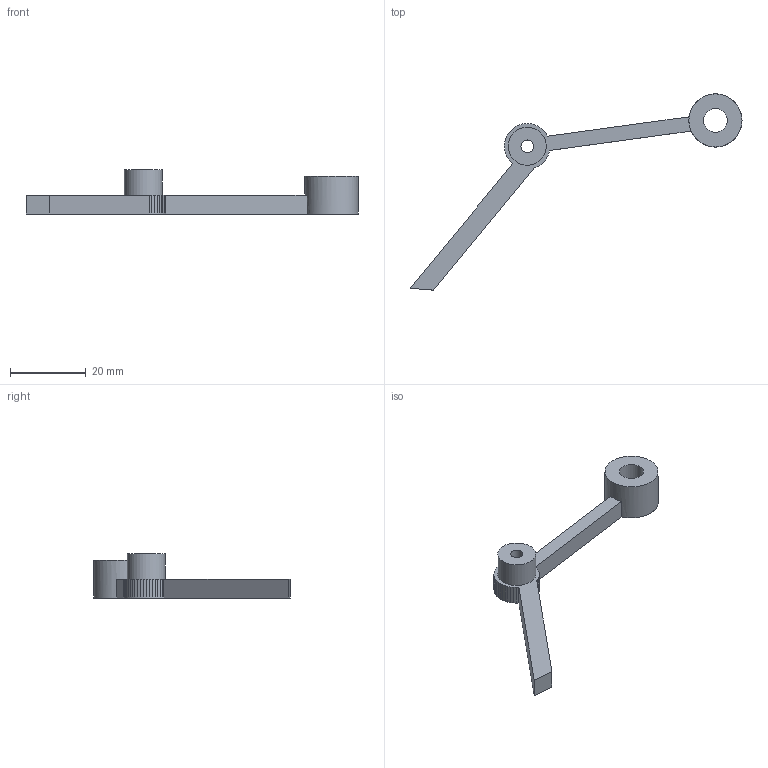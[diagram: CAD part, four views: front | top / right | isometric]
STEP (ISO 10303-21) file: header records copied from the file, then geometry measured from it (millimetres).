
FILE_DESCRIPTION(('Open CASCADE Model'),'2;1');
FILE_NAME('Open CASCADE Shape Model','2026-10-05T13:03:08',('Author'),( 'Open CASCADE'),'Open CASCADE STEP processor 7.9','Open CASCADE 7.9' ,'Unknown');
FILE_SCHEMA(('AUTOMOTIVE_DESIGN { 1 0 10303 214 1 1 1 1 }'));
Length unit declared in the file: millimetre
Products named in the file (1): Open CASCADE STEP translator 7.9 28
Bounding box: 87.4 x 51.67 x 11.6 mm (x, y, z)
Volume: 3955.7 mm3; surface area: 3064.7 mm2
Topology: 1 solids, 1 shells, 50 faces, 183 edges, 136 vertices
Faces by surface type: plane 46, cylinder 4
Full cylindrical faces by diameter (mm): 3.3 x1, 6.3 x1, 10 x1, 14 x1
Entity records: 4556 total; most frequent: CARTESIAN_POINT 1024, DIRECTION 655, LINE 445, VECTOR 445, ORIENTED_EDGE 366, PCURVE 366, DEFINITIONAL_REPRESENTATION 366, EDGE_CURVE 183
